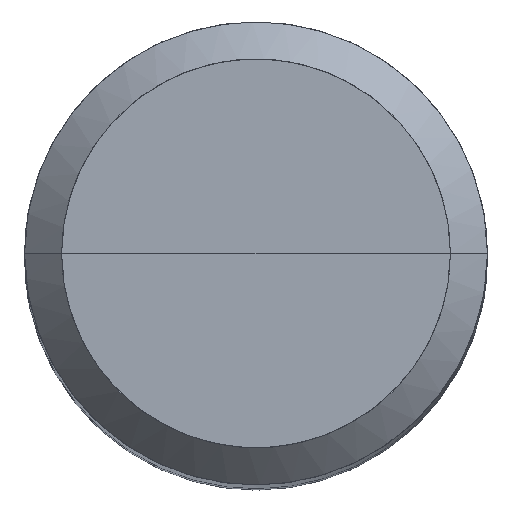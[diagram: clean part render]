
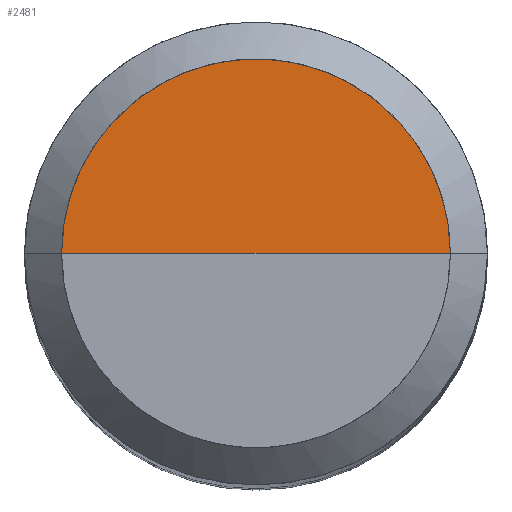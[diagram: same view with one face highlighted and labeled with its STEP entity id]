
A CAD part, top view. The second image highlights one B-rep face of the part: STEP entity #2481.
In plain terms, the highlighted free-form (B-spline) face has degree [1, 2] with [2, 5] control points.
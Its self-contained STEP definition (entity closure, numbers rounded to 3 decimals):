
#2283=CARTESIAN_POINT('',(10.5,0.0,110.0));
#2284=CARTESIAN_POINT('',(10.5,10.5,110.0));
#2285=CARTESIAN_POINT('',(0.0,10.5,110.0));
#2286=CARTESIAN_POINT('',(-10.5,10.5,110.0));
#2287=CARTESIAN_POINT('',(-10.5,0.0,110.0));
#2288=CARTESIAN_POINT('',(0.0,0.0,110.0));
#2466=(
BOUNDED_SURFACE()
B_SPLINE_SURFACE(1,2,(
(#2283,#2284,#2285,#2286,#2287),
(#2288,#2288,#2288,#2288,#2288)
), .UNSPECIFIED.,.F.,.F.,.F.)
B_SPLINE_SURFACE_WITH_KNOTS((2,2),(3,2,3),(
0.0,1.0),(
0.0,0.5,1.0), .UNSPECIFIED.)
GEOMETRIC_REPRESENTATION_ITEM()
RATIONAL_B_SPLINE_SURFACE(((1.0,0.707,1.0,0.707,1.0),
(1.0,0.707,1.0,0.707,1.0)
))
REPRESENTATION_ITEM('')
SURFACE()
);
#2467=(
BOUNDED_CURVE()
B_SPLINE_CURVE(2,(#2287,#2286,#2285,#2284,#2283),.UNSPECIFIED.,.F.,.F.)
B_SPLINE_CURVE_WITH_KNOTS((3,2,3),
(0.0,0.5,1.0),.UNSPECIFIED.)
CURVE()
GEOMETRIC_REPRESENTATION_ITEM()
RATIONAL_B_SPLINE_CURVE((1.0,0.707,1.0,0.707,1.0))
REPRESENTATION_ITEM('')
);
#2468=(
BOUNDED_CURVE()
B_SPLINE_CURVE(1,(#2283,#2288),.UNSPECIFIED.,.F.,.F.)
B_SPLINE_CURVE_WITH_KNOTS((2,2),
(0.0,1.0),.UNSPECIFIED.)
CURVE()
GEOMETRIC_REPRESENTATION_ITEM()
RATIONAL_B_SPLINE_CURVE((1.0,1.0))
REPRESENTATION_ITEM('')
);
#2469=(
BOUNDED_CURVE()
B_SPLINE_CURVE(1,(#2288,#2287),.UNSPECIFIED.,.F.,.F.)
B_SPLINE_CURVE_WITH_KNOTS((2,2),
(0.0,1.0),.UNSPECIFIED.)
CURVE()
GEOMETRIC_REPRESENTATION_ITEM()
RATIONAL_B_SPLINE_CURVE((1.0,1.0))
REPRESENTATION_ITEM('')
);
#2470=VERTEX_POINT('',#2283);
#2471=VERTEX_POINT('',#2287);
#2472=VERTEX_POINT('',#2288);
#2473=EDGE_CURVE('',#2471,#2470,#2467,.T.);
#2474=EDGE_CURVE('',#2470,#2472,#2468,.T.);
#2475=EDGE_CURVE('',#2472,#2471,#2469,.T.);
#2476=ORIENTED_EDGE('',*,*,#2473,.T.);
#2477=ORIENTED_EDGE('',*,*,#2474,.T.);
#2478=ORIENTED_EDGE('',*,*,#2475,.T.);
#2479=EDGE_LOOP('',(#2476,#2477,#2478));
#2480=FACE_OUTER_BOUND('',#2479,.T.);
#2481=ADVANCED_FACE('',(#2480),#2466,.T.);
